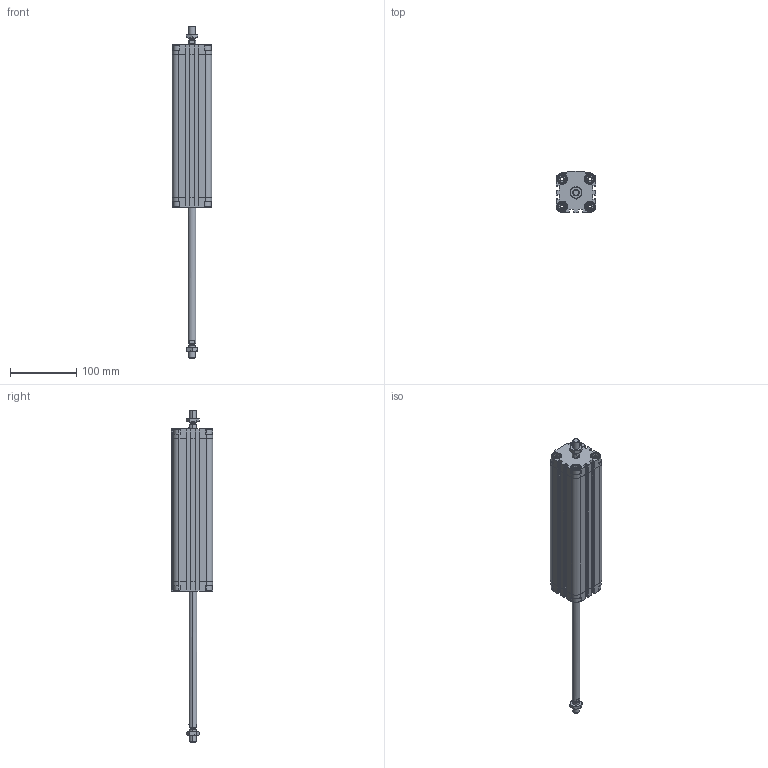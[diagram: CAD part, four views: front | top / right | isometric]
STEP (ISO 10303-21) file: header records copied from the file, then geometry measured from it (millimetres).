
FILE_DESCRIPTION (( 'STEP AP203' ), '1' );
FILE_NAME ('CDVU40-200M-P.STEP', '2020-07-21T15:18:32', ( '' ), ( '' ), 'SwSTEP 2.0', 'SolidWorks 2019', '' );
FILE_SCHEMA (( 'CONFIG_CONTROL_DESIGN' ));
Length unit declared in the file: millimetre
Products named in the file (1): CDVU40-200M-P
Bounding box: 60 x 62.5 x 502.5 mm (x, y, z)
Volume: 581620.7 mm3; surface area: 161859.9 mm2
Topology: 4 solids, 4 shells, 758 faces, 2004 edges, 1290 vertices
Faces by surface type: plane 438, cylinder 240, cone 80
Entity records: 24115 total; most frequent: CARTESIAN_POINT 5193, ORIENTED_EDGE 4000, DIRECTION 3862, EDGE_CURVE 2000, AXIS2_PLACEMENT_3D 1319, VERTEX_POINT 1290, LINE 1224, VECTOR 1224
